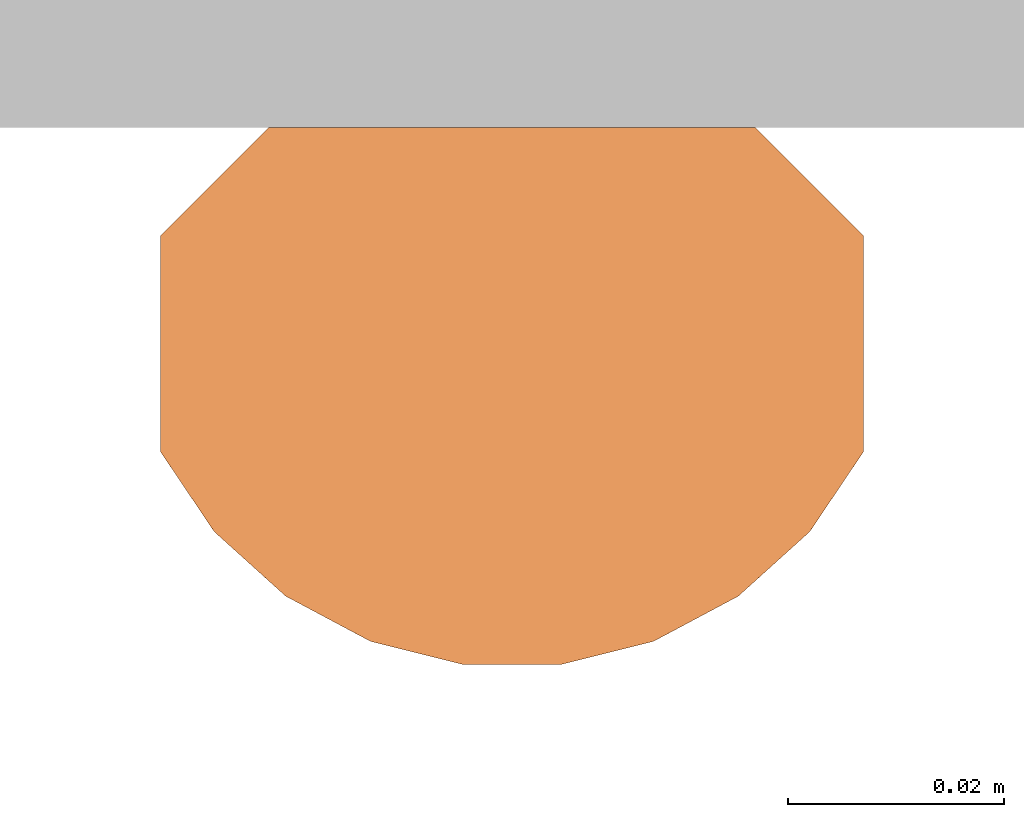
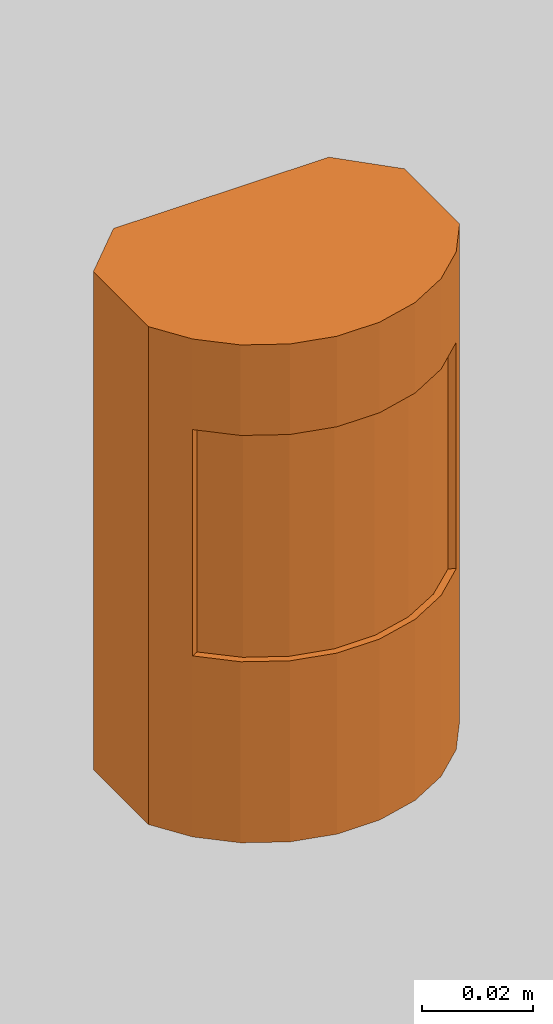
# One storey, part 93 of 197: 1 proxy.
"""IFC2X3 building model written with IfcOpenShell, lengths in metres."""

from ifc_helpers import new_model, entity, si_unit, converted_unit, direction, frame, origin, place, context, subcontext, project, spatial, faceted_brep, source, transform, mapped, material, material_list, type_object, type_shapes, element, save


model = new_model("IFC2X3")

# Units and contexts
model_context = context("Model", 3, precision=1e-05, world=origin(), true_north=direction((6.123031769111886e-17, 1.0)))
body_context = subcontext(model_context, "Body", "Model", "MODEL_VIEW")
ifc_project = project(units=[si_unit("LENGTHUNIT", "METRE"), converted_unit("PLANEANGLEUNIT", "DEGREE", entity("IfcPlaneAngleMeasure", 0.017453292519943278), si_unit("PLANEANGLEUNIT", "RADIAN"), dimensions=[0, 0, 0, 0, 0, 0, 0]), si_unit("AREAUNIT", "SQUARE_METRE")], contexts=[model_context])

# Site, building, storey
site_placement = place(None, origin())
site = spatial("IfcSite", under=ifc_project, at=site_placement, Name="Default", CompositionType="ELEMENT")
building_placement = place(site_placement, origin())
building = spatial("IfcBuilding", under=site, at=building_placement, CompositionType="ELEMENT")
storey_placement = place(building_placement, origin())
storey = spatial("IfcBuildingStorey", under=building, at=storey_placement, Name="Niveau 0", CompositionType="ELEMENT", Elevation=0.0)

# Proxy
ifc_material_1 = material(Name="BETCE-DETECTEUR INTRUSION-CELLULE-NOIR")
ifc_material_2 = material(Name="BETCE-DETECTEUR INTRUSION-ENVELOPPE-BLANC")
ifc_material_list = material_list([ifc_material_1, ifc_material_2])
building_element_proxy_type = type_object("IfcBuildingElementProxyType", Name="Détecteur intrusion:Détecteur", PredefinedType="NOTDEFINED", material=ifc_material_list)
shared_shape = source(origin(), body_context, "Body", "Brep", [
    faceted_brep([(0.019898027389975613, -0.042311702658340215, 0.09000000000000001), (0.026215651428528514, -0.03670736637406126, 0.09000000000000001), (0.025293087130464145, -0.0362395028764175, 0.09000000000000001), (0.01917596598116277, -0.04159451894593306, 0.09000000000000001), (0.011962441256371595, -0.045344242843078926, 0.09000000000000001), (0.004064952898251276, -0.047274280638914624, 0.09000000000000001), (-0.004064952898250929, -0.047274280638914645, 0.09000000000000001), (-0.01196244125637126, -0.04534424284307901, 0.09000000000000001), (-0.019175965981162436, -0.041594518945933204, 0.09000000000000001), (-0.02529308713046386, -0.03623950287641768, 0.09000000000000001), (-0.026215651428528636, -0.03670736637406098, 0.09000000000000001), (-0.019898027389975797, -0.042311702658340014, 0.09000000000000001), (-0.012421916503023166, -0.04623964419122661, 0.09000000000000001), (-0.00422258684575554, -0.04826250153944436, 0.09000000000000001), (0.004222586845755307, -0.04826250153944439, 0.09000000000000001), (0.012421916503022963, -0.046239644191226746, 0.09000000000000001), (-0.02621565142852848, -0.036707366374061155, 0.0), (-0.02529308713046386, -0.03623950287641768, 0.0), (-0.019175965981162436, -0.041594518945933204, 0.0), (-0.01196244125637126, -0.04534424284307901, 0.0), (-0.004064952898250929, -0.047274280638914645, 0.0), (0.004064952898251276, -0.047274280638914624, 0.0), (0.011962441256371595, -0.045344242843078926, 0.0), (0.01917596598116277, -0.04159451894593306, 0.0), (0.025293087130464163, -0.03623950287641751, 0.0), (0.026215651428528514, -0.03670736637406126, 0.0), (0.019898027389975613, -0.042311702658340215, 0.0), (0.012421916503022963, -0.046239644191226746, 0.0), (0.004222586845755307, -0.04826250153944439, 0.0), (-0.00422258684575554, -0.04826250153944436, 0.0), (-0.012421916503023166, -0.04623964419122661, 0.0), (-0.019898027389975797, -0.042311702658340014, 0.0)], [[[0, 1, 2, 3, 4, 5, 6, 7, 8, 9, 10, 11, 12, 13, 14, 15]], [[16, 17, 18, 19, 20, 21, 22, 23, 24, 25, 26, 27, 28, 29, 30, 31]], [[10, 9, 17, 16]], [[10, 16, 31, 11]], [[11, 31, 30, 12]], [[12, 30, 29, 13]], [[29, 28, 14, 13]], [[14, 28, 27, 15]], [[15, 27, 26, 0]], [[0, 26, 25, 1]], [[2, 1, 25, 24]], [[3, 2, 24, 23]], [[4, 3, 23, 22]], [[5, 4, 22, 21]], [[21, 20, 6, 5]], [[7, 6, 20, 19]], [[8, 7, 19, 18]], [[9, 8, 18, 17]]]),
    faceted_brep([(-0.022499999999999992, 0.0, 0.1099999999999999), (0.022499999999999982, 0.0, 0.10999999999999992), (0.022499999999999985, 0.0, 0.0), (-0.022499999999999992, 0.0, 0.0), (0.032500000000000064, -0.03000000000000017, 0.10999999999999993), (0.032500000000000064, -0.03000000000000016, 0.0), (0.03250000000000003, -0.009999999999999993, 0.0), (0.03250000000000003, -0.010000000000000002, 0.10999999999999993), (-0.03250000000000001, -0.010000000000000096, 0.10999999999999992), (-0.03249999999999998, -0.03000000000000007, 0.10999999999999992), (-0.02753721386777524, -0.0373845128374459, 0.10999999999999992), (-0.020932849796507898, -0.04334627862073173, 0.10999999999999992), (-0.013080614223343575, -0.047529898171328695, 0.10999999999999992), (-0.00444860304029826, -0.049685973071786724, 0.10999999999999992), (0.004448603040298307, -0.049685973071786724, 0.10999999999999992), (0.013080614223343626, -0.04752989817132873, 0.10999999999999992), (0.020932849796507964, -0.04334627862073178, 0.10999999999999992), (0.027537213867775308, -0.03738451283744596, 0.10999999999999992), (-0.032499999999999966, -0.030000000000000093, 0.0), (-0.032499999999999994, -0.010000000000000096, 0.0), (0.027537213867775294, -0.03738451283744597, 0.0), (0.02093284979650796, -0.04334627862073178, 0.0), (0.013080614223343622, -0.04752989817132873, 0.0), (0.004448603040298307, -0.049685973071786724, 0.0), (-0.004448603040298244, -0.049685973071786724, 0.0), (-0.013080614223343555, -0.047529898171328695, 0.0), (-0.020932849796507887, -0.043346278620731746, 0.0), (-0.027537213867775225, -0.03738451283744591, 0.0), (0.02754139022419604, -0.03737969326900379, 0.09), (0.02093657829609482, -0.0433436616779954, 0.09), (0.027541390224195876, -0.03737969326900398, 0.04), (0.004449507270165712, -0.04968586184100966, 0.09), (0.013083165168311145, -0.04752891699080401, 0.09), (0.02093657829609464, -0.04334366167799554, 0.04), (0.013083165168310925, -0.047528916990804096, 0.04), (0.004449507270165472, -0.0496858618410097, 0.04), (-0.004449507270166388, -0.049685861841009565, 0.04), (-0.004449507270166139, -0.0496858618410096, 0.09), (-0.013083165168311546, -0.0475289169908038, 0.09), (-0.027541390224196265, -0.03737969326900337, 0.09), (-0.020936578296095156, -0.04334366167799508, 0.09), (-0.027541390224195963, -0.03737969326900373, 0.04), (-0.013083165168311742, -0.04752891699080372, 0.04), (-0.020936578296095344, -0.04334366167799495, 0.04), (0.025293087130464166, -0.03623950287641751, 0.09), (-0.02529308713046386, -0.03623950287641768, 0.09), (-0.019175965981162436, -0.041594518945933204, 0.09), (-0.011962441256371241, -0.04534424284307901, 0.09), (-0.004064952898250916, -0.04727428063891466, 0.09), (0.004064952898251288, -0.047274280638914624, 0.09), (0.011962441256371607, -0.045344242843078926, 0.09), (0.019175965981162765, -0.041594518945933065, 0.09), (0.025293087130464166, -0.03623950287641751, 0.04), (0.019175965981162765, -0.041594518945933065, 0.04), (0.011962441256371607, -0.045344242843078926, 0.04), (0.004064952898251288, -0.047274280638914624, 0.04), (-0.004064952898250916, -0.04727428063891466, 0.04), (-0.011962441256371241, -0.04534424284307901, 0.04), (-0.019175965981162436, -0.041594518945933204, 0.04), (-0.02529308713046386, -0.03623950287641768, 0.04)], [[[0, 1, 2, 3]], [[4, 5, 6, 7]], [[1, 0, 8, 9, 10, 11, 12, 13, 14, 15, 16, 17, 4, 7]], [[18, 9, 8, 19]], [[3, 2, 6, 5, 20, 21, 22, 23, 24, 25, 26, 27, 18, 19]], [[19, 8, 0, 3]], [[6, 2, 1, 7]], [[4, 17, 28]], [[29, 28, 17]], [[17, 16, 29]], [[4, 28, 30, 5]], [[15, 14, 31]], [[15, 32, 16]], [[32, 15, 31]], [[16, 32, 29]], [[30, 33, 20]], [[20, 5, 30]], [[33, 21, 20]], [[34, 35, 22]], [[34, 22, 21]], [[22, 35, 23]], [[23, 35, 36, 24]], [[34, 21, 33]], [[37, 31, 14, 13]], [[13, 12, 37]], [[38, 37, 12]], [[12, 11, 38]], [[10, 9, 39]], [[10, 40, 11]], [[40, 10, 39]], [[11, 40, 38]], [[9, 18, 41, 39]], [[36, 42, 25]], [[25, 24, 36]], [[42, 26, 25]], [[43, 41, 27]], [[43, 27, 26]], [[27, 41, 18]], [[43, 26, 42]], [[44, 28, 29, 32, 31, 37, 38, 40, 39, 45, 46, 47, 48, 49, 50, 51]], [[43, 42, 36, 35, 34, 33, 30, 52, 53, 54, 55, 56, 57, 58, 59, 41]], [[59, 45, 39, 41]], [[52, 30, 28, 44]], [[44, 51, 53, 52]], [[50, 49, 55, 54]], [[51, 50, 54, 53]], [[49, 48, 56, 55]], [[57, 56, 48, 47]], [[58, 57, 47, 46]], [[59, 58, 46, 45]]]),
])
type_shapes(building_element_proxy_type, [shared_shape])
proxy_placement = place(storey_placement, frame((-532.5715951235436, -41.558644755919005, 1.4999999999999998)))
element("IfcBuildingElementProxy", 1, at=proxy_placement, inside=storey, type_object=building_element_proxy_type, material=ifc_material_list, Name="Détecteur intrusion:Détecteur", ObjectType="Détecteur intrusion:Détecteur", context=body_context, shape_type="MappedRepresentation", body=[
    mapped(shared_shape, transform((0.0, 0.0, 0.0), scale=1.0)),
])

save(model, "model.ifc")
